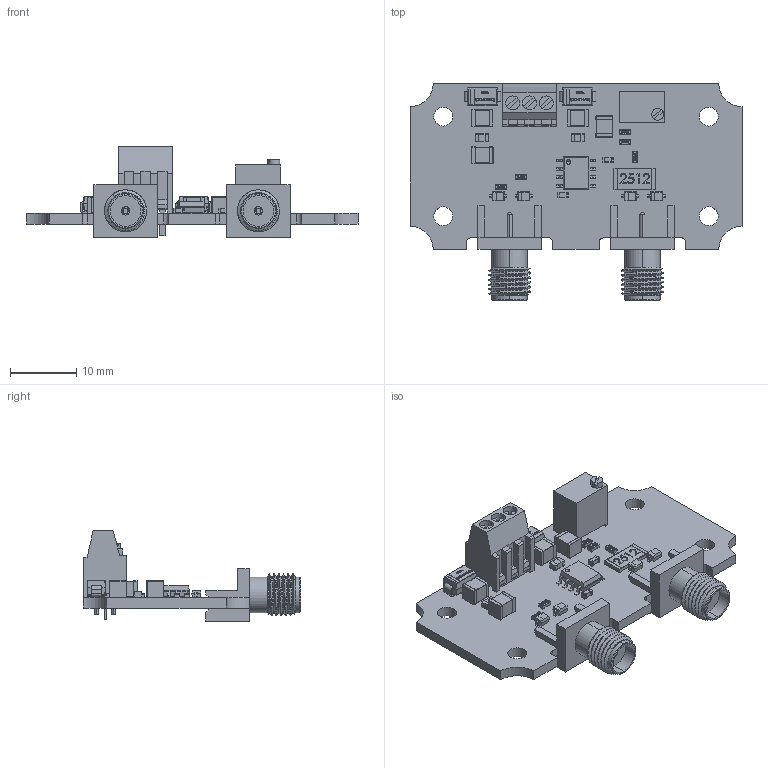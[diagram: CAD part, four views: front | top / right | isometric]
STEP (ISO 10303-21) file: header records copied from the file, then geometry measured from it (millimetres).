
FILE_DESCRIPTION(('Open CASCADE Model'),'2;1');
FILE_NAME('Open CASCADE Shape Model','2018-11-22T12:03:21',('Author'),( 'Open CASCADE'),'Open CASCADE STEP processor 6.8','Open CASCADE 6.8' ,'Unknown');
FILE_SCHEMA(('AUTOMOTIVE_DESIGN { 1 0 10303 214 1 1 1 1 }'));
Length unit declared in the file: millimetre
Products named in the file (40): PCB; Board; R11; R0603; R8; R7; R2512; R5; R3; R2; D6; SOD323-1; D5; D4; D3; C7; C0603; C5; L2; 74279201; Lötende; L1; IC1; SOIC-8-1; D2; DO-214AC; D1; C4; C1210; C3; C2; C1; X2; Johnson_Components_SMA-50_Ohm_Connectors_142-0701-801; X1; R1; T63YB; P1; 2396254_282834-3_RGB32768
Assembly tree (54 placements, depth 4):
  PCB
    Board
    R11
      R0603
    R8
      R0603
    R7
      R2512
    R5
      R0603
    R3
      R0603
    R2
      R0603
    D6
      SOD323-1
    D5
      SOD323-1
    D4
      SOD323-1
    D3
      SOD323-1
    C7
      C0603
    C5
      C0603
    L2
      74279201
        74279201
        Lötende  x2
    L1
      74279201
        74279201
        Lötende  x2
    IC1
      SOIC-8-1
    D2
      DO-214AC
    D1
      DO-214AC
    C4
      C1210
    C3
      C1210
    C2
      C1210
    C1
      C1210
    X2
      Johnson_Components_SMA-50_Ohm_Connectors_142-0701-801
    X1
      Johnson_Components_SMA-50_Ohm_Connectors_142-0701-801
    R1
      T63YB
    P1
      2396254_282834-3_RGB32768
Bounding box: 50 x 32.7 x 13.6 mm (x, y, z)
Volume: 3244.4 mm3; surface area: 5055.6 mm2
Topology: 47 solids, 47 shells, 1806 faces, 4723 edges, 3036 vertices
Faces by surface type: plane 943, cylinder 476, bspline 305, sphere 66, cone 16
Full cylindrical faces by diameter (mm): 0.65 x2, 0.9 x3, 1.2 x3, 2.85 x4
Entity records: 35600 total; most frequent: CARTESIAN_POINT 11149, ORIENTED_EDGE 4408, DIRECTION 3767, EDGE_CURVE 2204, VERTEX_POINT 1448, LINE 1389, VECTOR 1389, AXIS2_PLACEMENT_3D 1189
